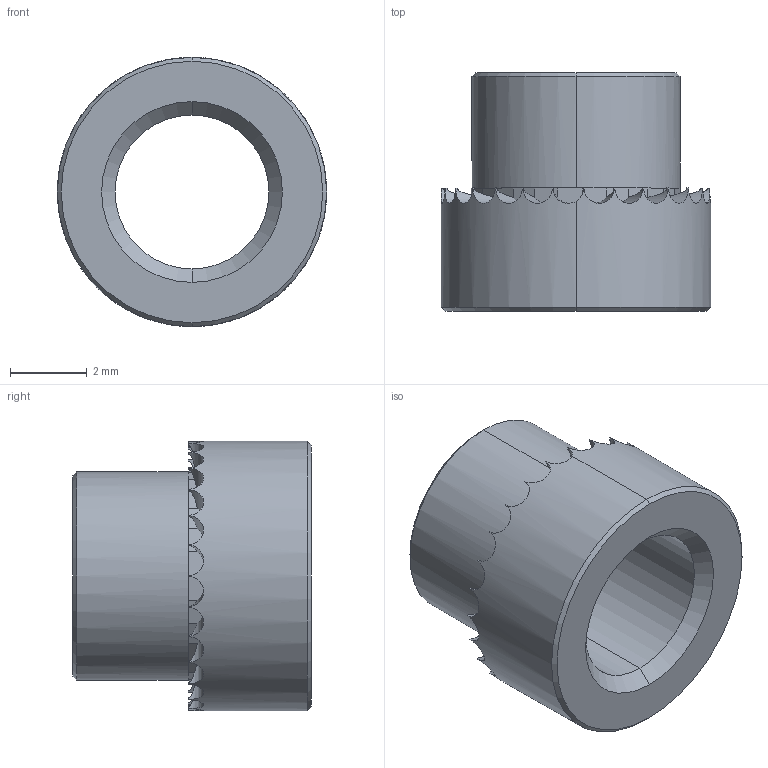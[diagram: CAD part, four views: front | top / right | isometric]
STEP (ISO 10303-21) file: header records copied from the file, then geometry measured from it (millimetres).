
FILE_DESCRIPTION (( 'STEP AP203' ), '1' );
FILE_NAME ('P0829.040-12G-ZP.step', '2019-03-21T22:15:44', ( '' ), ( '' ), 'SwSTEP 2.0', 'SolidWorks 2017', '' );
FILE_SCHEMA (( 'CONFIG_CONTROL_DESIGN' ));
Length unit declared in the file: millimetre
Products named in the file (1): P0829.040-12G-ZP
Bounding box: 7 x 6.2 x 7 mm (x, y, z)
Volume: 107.2 mm3; surface area: 247.6 mm2
Topology: 1 solids, 1 shells, 124 faces, 304 edges, 182 vertices
Faces by surface type: plane 83, cylinder 33, cone 8
Entity records: 3865 total; most frequent: CARTESIAN_POINT 943, ORIENTED_EDGE 608, DIRECTION 597, EDGE_CURVE 304, AXIS2_PLACEMENT_3D 224, VERTEX_POINT 182, LINE 149, VECTOR 149
